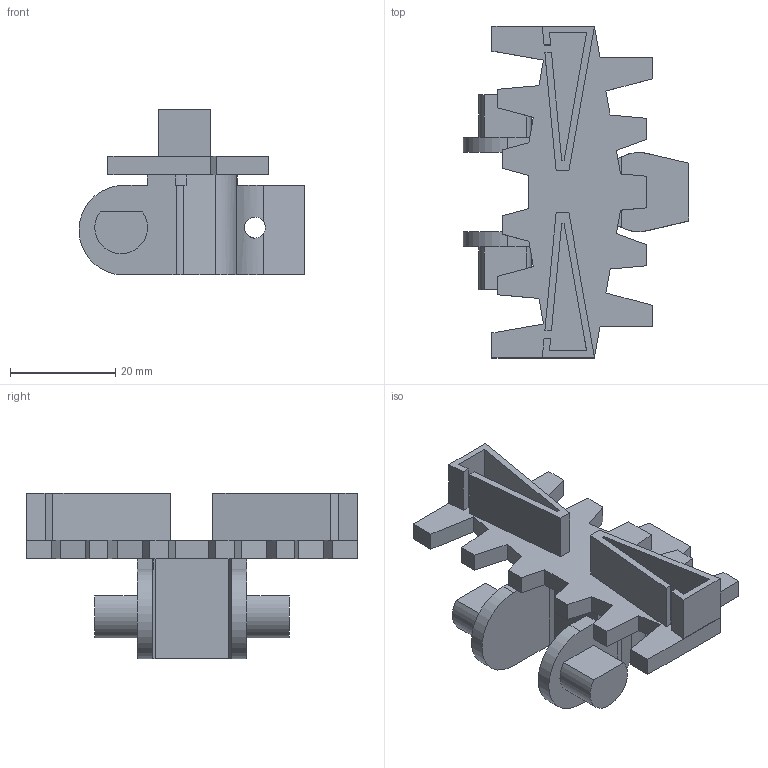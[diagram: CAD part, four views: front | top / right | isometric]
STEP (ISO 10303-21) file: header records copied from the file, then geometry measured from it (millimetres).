
FILE_DESCRIPTION (( 'STEP AP214' ), '1' );
FILE_NAME ('FSCT-5A-H9-P.STEP', '2011-09-28T07:35:38', ( '.' ), ( '' ), 'SwSTEP 2.0', 'SolidWorks 2010', '' );
FILE_SCHEMA (( 'AUTOMOTIVE_DESIGN' ));
Length unit declared in the file: millimetre
Products named in the file (1): FSCT-5A-H9-P
Bounding box: 42.9 x 63 x 31.5 mm (x, y, z)
Volume: 14803.8 mm3; surface area: 9682.8 mm2
Topology: 1 solids, 1 shells, 115 faces, 333 edges, 220 vertices
Faces by surface type: plane 101, cylinder 14
Entity records: 3849 total; most frequent: CARTESIAN_POINT 767, ORIENTED_EDGE 666, DIRECTION 585, EDGE_CURVE 333, VECTOR 297, LINE 297, VERTEX_POINT 220, AXIS2_PLACEMENT_3D 144
